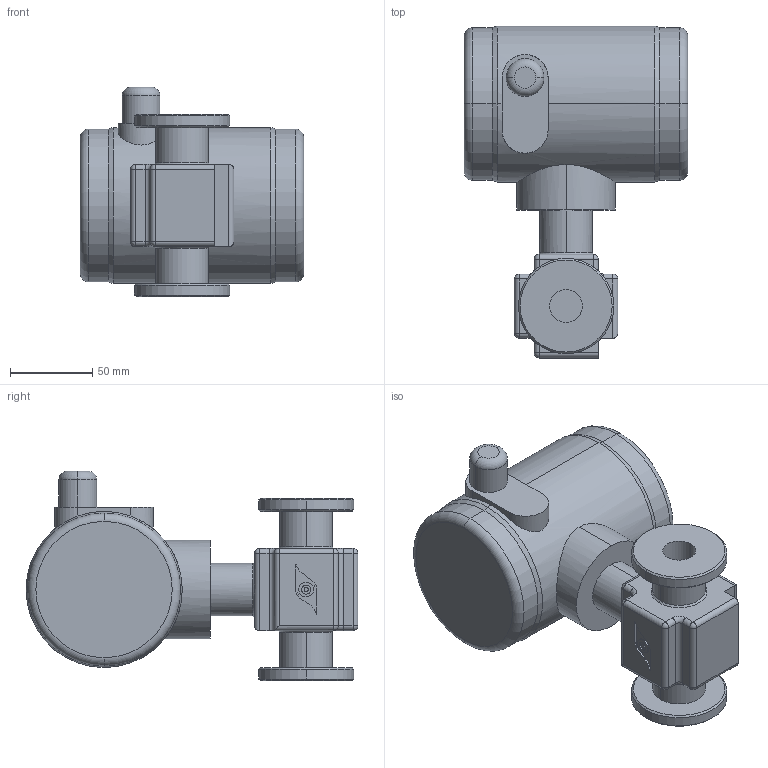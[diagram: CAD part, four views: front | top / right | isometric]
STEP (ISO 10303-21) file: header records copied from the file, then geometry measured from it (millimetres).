
FILE_DESCRIPTION (( 'STEP AP203' ), '1' );
FILE_NAME ('倳20.STEP', '2015-11-06T10:25:09', ( '' ), ( '' ), 'SwSTEP 2.0', 'SolidWorks 2015', '' );
FILE_SCHEMA (( 'CONFIG_CONTROL_DESIGN' ));
Length unit declared in the file: millimetre
Products named in the file (2): 倳20
Bounding box: 136 x 202 x 127.5 mm (x, y, z)
Volume: 1263242.9 mm3; surface area: 97193.6 mm2
Topology: 1 solids, 1 shells, 173 faces, 394 edges, 231 vertices
Faces by surface type: cylinder 70, plane 53, cone 19, torus 11, sphere 10, bspline 10
Entity records: 5421 total; most frequent: CARTESIAN_POINT 1410, DIRECTION 848, ORIENTED_EDGE 768, EDGE_CURVE 384, AXIS2_PLACEMENT_3D 331, VERTEX_POINT 231, EDGE_LOOP 191, VECTOR 186
